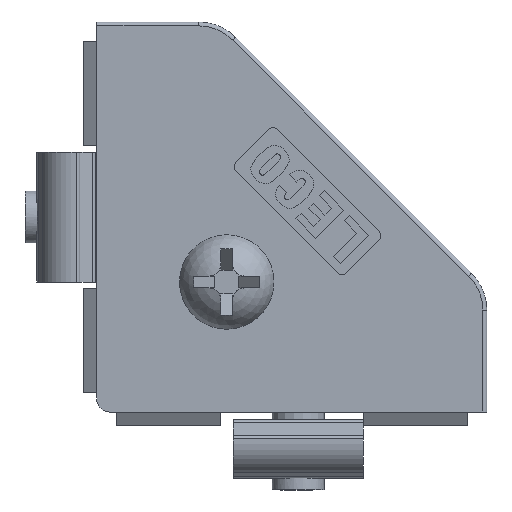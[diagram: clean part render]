
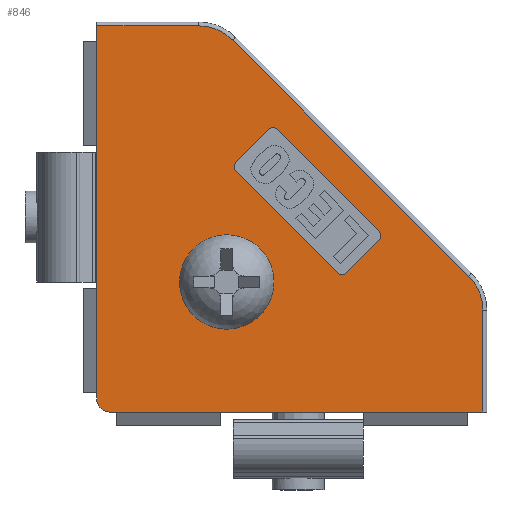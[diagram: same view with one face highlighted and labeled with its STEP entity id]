
A CAD part, left-side view. The second image highlights one B-rep face of the part: STEP entity #846.
In plain terms, the highlighted planar face has unit normal (-1, 0, 0) as drawn and (0, -1, 0) by its records, which use the part's own axes.
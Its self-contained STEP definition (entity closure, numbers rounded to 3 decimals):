
#846=ADVANCED_FACE('',(#1720,#1721,#1722),#1723,.F.);
#1720=FACE_BOUND('',#2673,.T.);
#1721=FACE_BOUND('',#2674,.T.);
#1722=FACE_OUTER_BOUND('',#2675,.T.);
#1723=PLANE('',#2676);
#2673=EDGE_LOOP('',(#4743));
#2674=EDGE_LOOP('',(#4744,#4745,#4746,#4747,#4748,#4749,#4750,#4751));
#2675=EDGE_LOOP('',(#4752,#4753,#4754,#4755,#4756,#4757,#4758,#4759));
#2676=AXIS2_PLACEMENT_3D('',#4760,#4761,#4762);
#4743=ORIENTED_EDGE('',*,*,#5947,.T.);
#4744=ORIENTED_EDGE('',*,*,#6359,.F.);
#4745=ORIENTED_EDGE('',*,*,#6300,.F.);
#4746=ORIENTED_EDGE('',*,*,#6341,.F.);
#4747=ORIENTED_EDGE('',*,*,#6344,.F.);
#4748=ORIENTED_EDGE('',*,*,#6347,.F.);
#4749=ORIENTED_EDGE('',*,*,#6350,.F.);
#4750=ORIENTED_EDGE('',*,*,#6353,.F.);
#4751=ORIENTED_EDGE('',*,*,#6356,.F.);
#4752=ORIENTED_EDGE('',*,*,#5733,.T.);
#4753=ORIENTED_EDGE('',*,*,#5920,.T.);
#4754=ORIENTED_EDGE('',*,*,#5917,.T.);
#4755=ORIENTED_EDGE('',*,*,#5913,.T.);
#4756=ORIENTED_EDGE('',*,*,#5910,.T.);
#4757=ORIENTED_EDGE('',*,*,#5906,.T.);
#4758=ORIENTED_EDGE('',*,*,#5754,.T.);
#4759=ORIENTED_EDGE('',*,*,#5858,.T.);
#4760=CARTESIAN_POINT('',(1.,7.444,31.0));
#4761=DIRECTION('',(0.0,1.0,0.0));
#4762=DIRECTION('',(0.0,0.0,1.0));
#5733=EDGE_CURVE('',#6796,#6794,#6797,.T.);
#5754=EDGE_CURVE('',#6837,#6835,#6838,.T.);
#5858=EDGE_CURVE('',#6835,#6796,#7013,.F.);
#5906=EDGE_CURVE('',#7076,#6837,#7077,.F.);
#5910=EDGE_CURVE('',#7081,#7076,#7082,.F.);
#5913=EDGE_CURVE('',#7085,#7081,#7086,.T.);
#5917=EDGE_CURVE('',#7090,#7085,#7091,.F.);
#5920=EDGE_CURVE('',#6794,#7090,#7094,.F.);
#5947=EDGE_CURVE('',#7124,#7124,#7125,.T.);
#6300=EDGE_CURVE('',#7676,#7677,#7678,.T.);
#6341=EDGE_CURVE('',#7719,#7676,#7720,.T.);
#6344=EDGE_CURVE('',#7723,#7719,#7724,.T.);
#6347=EDGE_CURVE('',#7727,#7723,#7728,.T.);
#6350=EDGE_CURVE('',#7731,#7727,#7732,.T.);
#6353=EDGE_CURVE('',#7735,#7731,#7736,.T.);
#6356=EDGE_CURVE('',#7739,#7735,#7740,.T.);
#6359=EDGE_CURVE('',#7677,#7739,#7743,.T.);
#6794=VERTEX_POINT('',#8353);
#6796=VERTEX_POINT('',#8355);
#6797=LINE('',#8356,#8357);
#6835=VERTEX_POINT('',#8410);
#6837=VERTEX_POINT('',#8413);
#6838=LINE('',#8414,#8415);
#7013=CIRCLE('',#8635,1.0);
#7076=VERTEX_POINT('',#8712);
#7077=LINE('',#8713,#8714);
#7081=VERTEX_POINT('',#8719);
#7082=CIRCLE('',#8720,3.7);
#7085=VERTEX_POINT('',#8723);
#7086=LINE('',#8724,#8725);
#7090=VERTEX_POINT('',#8730);
#7091=CIRCLE('',#8731,3.7);
#7094=LINE('',#8734,#8735);
#7124=VERTEX_POINT('',#8773);
#7125=CIRCLE('',#8774,2.0);
#7676=VERTEX_POINT('',#9487);
#7677=VERTEX_POINT('',#9488);
#7678=CIRCLE('',#9489,0.45);
#7719=VERTEX_POINT('',#9550);
#7720=LINE('',#9551,#9552);
#7723=VERTEX_POINT('',#9556);
#7724=CIRCLE('',#9557,0.45);
#7727=VERTEX_POINT('',#9561);
#7728=LINE('',#9562,#9563);
#7731=VERTEX_POINT('',#9567);
#7732=CIRCLE('',#9568,0.45);
#7735=VERTEX_POINT('',#9572);
#7736=LINE('',#9573,#9574);
#7739=VERTEX_POINT('',#9578);
#7740=CIRCLE('',#9579,0.45);
#7743=LINE('',#9583,#9584);
#8353=CARTESIAN_POINT('',(30.7,7.444,1.));
#8355=CARTESIAN_POINT('',(2.,7.444,1.));
#8356=CARTESIAN_POINT('',(1.,7.444,1.));
#8357=VECTOR('',#10458,1.0);
#8410=CARTESIAN_POINT('',(1.,7.444,2.));
#8413=CARTESIAN_POINT('',(1.,7.444,30.7));
#8414=CARTESIAN_POINT('',(1.,7.444,31.0));
#8415=VECTOR('',#10484,1.0);
#8635=AXIS2_PLACEMENT_3D('',#10653,#10654,#10655);
#8712=CARTESIAN_POINT('',(8.843,7.444,30.7));
#8713=CARTESIAN_POINT('',(1.,7.444,30.7));
#8714=VECTOR('',#10724,1.0);
#8719=CARTESIAN_POINT('',(11.459,7.444,29.616));
#8720=AXIS2_PLACEMENT_3D('',#10729,#10730,#10731);
#8723=CARTESIAN_POINT('',(29.616,7.444,11.459));
#8724=CARTESIAN_POINT('',(11.459,7.444,29.616));
#8725=VECTOR('',#10735,1.0);
#8730=CARTESIAN_POINT('',(30.7,7.444,8.843));
#8731=AXIS2_PLACEMENT_3D('',#10740,#10741,#10742);
#8734=CARTESIAN_POINT('',(30.7,7.444,31.0));
#8735=VECTOR('',#10746,1.0);
#8773=CARTESIAN_POINT('',(13.0,7.444,11.0));
#8774=AXIS2_PLACEMENT_3D('',#10764,#10765,#10766);
#9487=CARTESIAN_POINT('',(14.881,7.444,22.73));
#9488=CARTESIAN_POINT('',(14.245,7.444,22.73));
#9489=AXIS2_PLACEMENT_3D('',#11259,#11260,#11261);
#9550=CARTESIAN_POINT('',(22.73,7.444,14.881));
#9551=CARTESIAN_POINT('',(22.73,7.444,14.881));
#9552=VECTOR('',#11282,1.0);
#9556=CARTESIAN_POINT('',(22.73,7.444,14.245));
#9557=AXIS2_PLACEMENT_3D('',#11284,#11285,#11286);
#9561=CARTESIAN_POINT('',(20.184,7.444,11.699));
#9562=CARTESIAN_POINT('',(20.184,7.444,11.699));
#9563=VECTOR('',#11288,1.0);
#9567=CARTESIAN_POINT('',(19.548,7.444,11.699));
#9568=AXIS2_PLACEMENT_3D('',#11290,#11291,#11292);
#9572=CARTESIAN_POINT('',(11.699,7.444,19.548));
#9573=CARTESIAN_POINT('',(11.699,7.444,19.548));
#9574=VECTOR('',#11294,1.0);
#9578=CARTESIAN_POINT('',(11.699,7.444,20.184));
#9579=AXIS2_PLACEMENT_3D('',#11296,#11297,#11298);
#9583=CARTESIAN_POINT('',(14.245,7.444,22.73));
#9584=VECTOR('',#11300,1.0);
#10458=DIRECTION('',(1.0,0.0,0.0));
#10484=DIRECTION('',(0.0,0.0,-1.0));
#10653=CARTESIAN_POINT('',(2.,7.444,2.));
#10654=DIRECTION('',(0.0,1.0,0.0));
#10655=DIRECTION('',(0.0,0.0,1.0));
#10724=DIRECTION('',(1.0,0.0,0.0));
#10729=CARTESIAN_POINT('',(8.843,7.444,27.0));
#10730=DIRECTION('',(0.0,1.0,0.0));
#10731=DIRECTION('',(0.0,0.0,1.0));
#10735=DIRECTION('',(-0.707,0.0,0.707));
#10740=CARTESIAN_POINT('',(27.0,7.444,8.843));
#10741=DIRECTION('',(0.0,1.0,0.0));
#10742=DIRECTION('',(0.0,0.0,1.0));
#10746=DIRECTION('',(0.0,0.0,-1.0));
#10764=CARTESIAN_POINT('',(11.0,7.444,11.0));
#10765=DIRECTION('',(-0.0,1.0,0.0));
#10766=DIRECTION('',(1.0,0.0,0.0));
#11259=CARTESIAN_POINT('',(14.563,7.444,22.412));
#11260=DIRECTION('',(0.0,-1.0,0.0));
#11261=DIRECTION('',(1.0,0.0,0.0));
#11282=DIRECTION('',(-0.707,0.0,0.707));
#11284=CARTESIAN_POINT('',(22.412,7.444,14.563));
#11285=DIRECTION('',(0.0,-1.0,0.0));
#11286=DIRECTION('',(1.0,0.0,0.0));
#11288=DIRECTION('',(0.707,0.0,0.707));
#11290=CARTESIAN_POINT('',(19.866,7.444,12.017));
#11291=DIRECTION('',(0.0,-1.0,0.0));
#11292=DIRECTION('',(1.0,0.0,0.0));
#11294=DIRECTION('',(0.707,0.0,-0.707));
#11296=CARTESIAN_POINT('',(12.017,7.444,19.866));
#11297=DIRECTION('',(0.0,-1.0,0.0));
#11298=DIRECTION('',(1.0,0.0,0.0));
#11300=DIRECTION('',(-0.707,0.0,-0.707));
